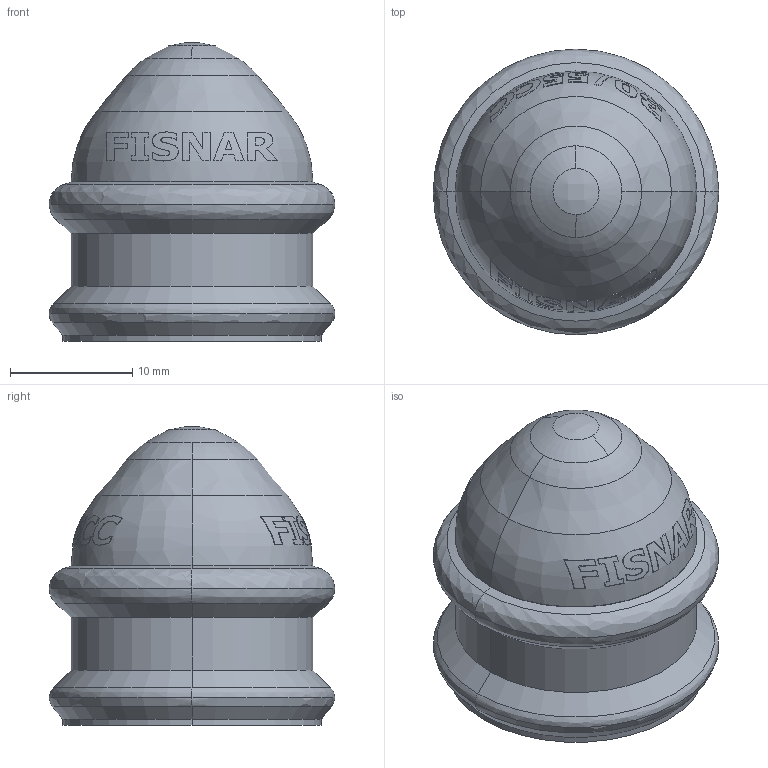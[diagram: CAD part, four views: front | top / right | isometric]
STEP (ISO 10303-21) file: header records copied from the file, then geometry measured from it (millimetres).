
FILE_DESCRIPTION (( 'STEP AP214' ), '1' );
FILE_NAME ('Rubber Piston 30cc.STEP', '2022-04-29T15:42:14', ( '' ), ( '' ), 'SwSTEP 2.0', 'SolidWorks 2020', '' );
FILE_SCHEMA (( 'AUTOMOTIVE_DESIGN' ));
Length unit declared in the file: millimetre
Products named in the file (1): Rubber Piston 30cc
Bounding box: 23.4 x 23.4 x 24.44 mm (x, y, z)
Volume: 3598.8 mm3; surface area: 2854.9 mm2
Topology: 1 solids, 1 shells, 208 faces, 528 edges, 340 vertices
Faces by surface type: plane 90, bspline 67, torus 27, cone 14, cylinder 10
Entity records: 8948 total; most frequent: CARTESIAN_POINT 4252, ORIENTED_EDGE 1056, DIRECTION 750, EDGE_CURVE 528, VERTEX_POINT 340, AXIS2_PLACEMENT_3D 292, EDGE_LOOP 226, B_SPLINE_CURVE_WITH_KNOTS 210
